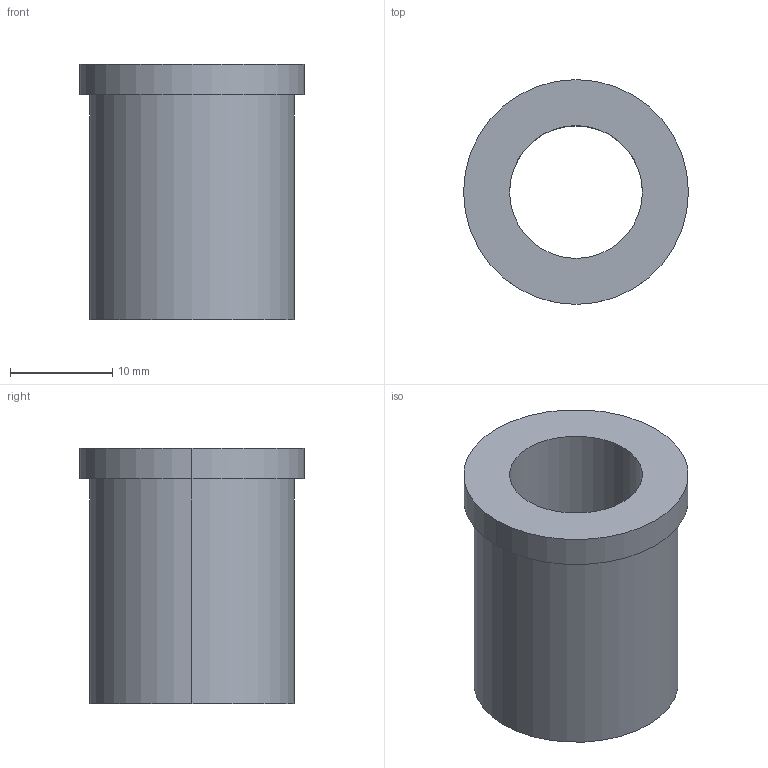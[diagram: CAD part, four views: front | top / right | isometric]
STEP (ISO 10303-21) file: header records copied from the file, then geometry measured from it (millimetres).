
FILE_DESCRIPTION(/* description */ (''),/* implementation_level */ '2;1');
FILE_NAME(/* name */ '3d_tgbf13-25_00360_r00.stp',/* time_stamp */ '2011-01-10T14:09:04+09:00',/* author */ ('MISUMI'),/* organization */ (''),/* preprocessor_version */ 'ST-DEVELOPER v11',/* originating_system */ 'UGS - NX 5.0',/* authorisation */ '');
FILE_SCHEMA (('CONFIG_CONTROL_DESIGN'));
Length unit declared in the file: millimetre
Products named in the file (1): 3d_tgbf13-25_00360_r00
Bounding box: 22 x 22 x 25 mm (x, y, z)
Volume: 4733.6 mm3; surface area: 3105.5 mm2
Topology: 1 solids, 1 shells, 9 faces, 18 edges, 12 vertices
Faces by surface type: cylinder 6, plane 3
Entity records: 334 total; most frequent: DIRECTION 50, CARTESIAN_POINT 40, ORIENTED_EDGE 36, AXIS2_PLACEMENT_3D 22, EDGE_CURVE 18, EDGE_LOOP 12, CIRCLE 12, VERTEX_POINT 12
